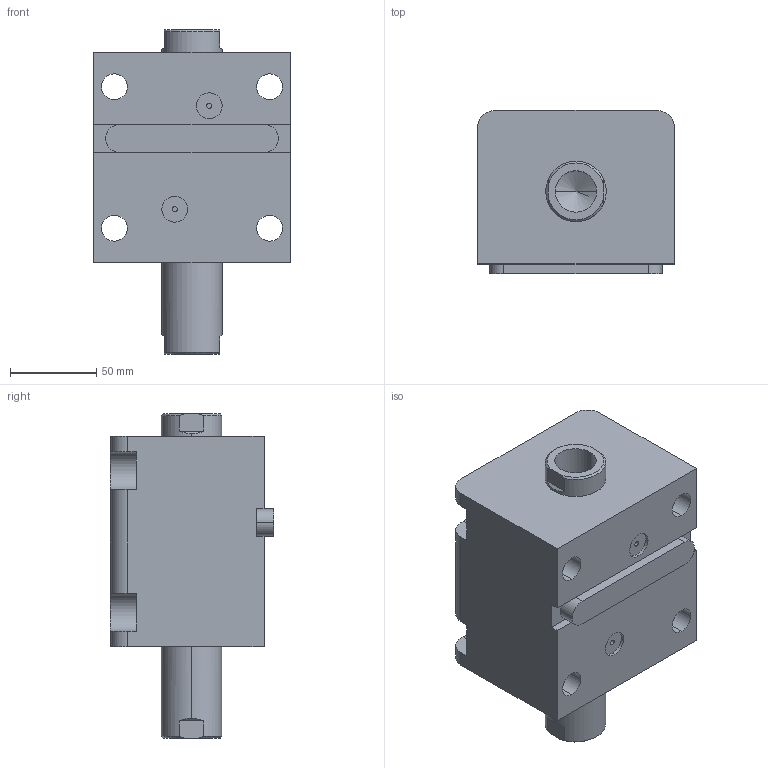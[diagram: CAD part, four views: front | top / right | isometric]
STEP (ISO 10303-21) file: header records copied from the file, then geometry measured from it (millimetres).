
FILE_DESCRIPTION (( 'STEP AP203' ), '1' );
FILE_NAME ('HTB-LWM63-40N.STEP', '2020-12-25T03:43:49', ( '微软用户' ), ( '微软中国' ), 'SwSTEP 2.0', 'SolidWorks 2012', '' );
FILE_SCHEMA (( 'CONFIG_CONTROL_DESIGN' ));
Length unit declared in the file: millimetre
Products named in the file (4): HTB-LWM63-40掛极; HTB-LWM63-40N活塞杆; HTB-LWM63-瑩; HTB-LWM63-40N
Assembly tree (3 placements, depth 2):
  HTB-LWM63-40N
    HTB-LWM63-40掛极
    HTB-LWM63-40N活塞杆
    HTB-LWM63-瑩
Bounding box: 114 x 94.5 x 188 mm (x, y, z)
Volume: 1102309.8 mm3; surface area: 145183.8 mm2
Topology: 3 solids, 3 shells, 105 faces, 261 edges, 168 vertices
Faces by surface type: cylinder 45, plane 44, torus 8, cone 8
Entity records: 3571 total; most frequent: CARTESIAN_POINT 592, DIRECTION 573, ORIENTED_EDGE 514, EDGE_CURVE 257, AXIS2_PLACEMENT_3D 221, VERTEX_POINT 168, VECTOR 131, LINE 131
